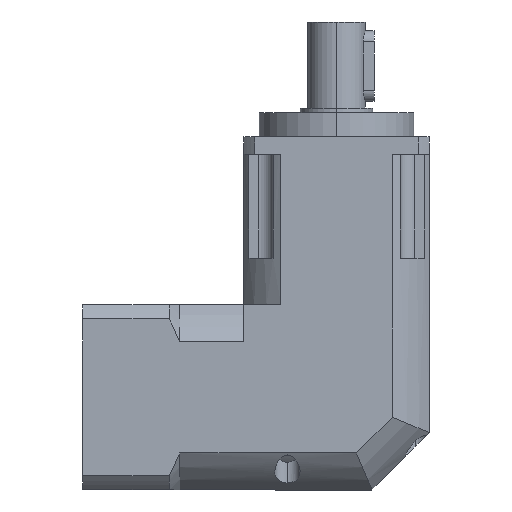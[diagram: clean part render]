
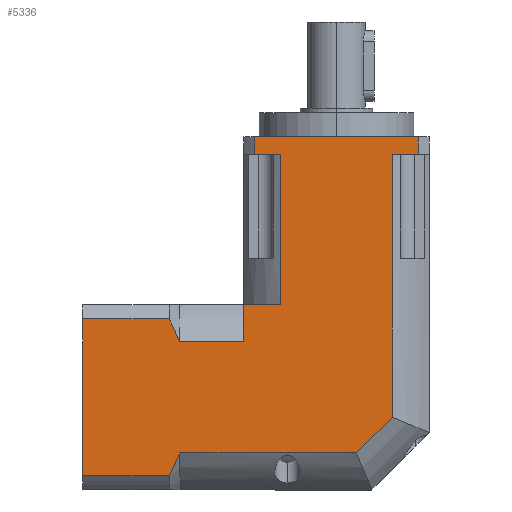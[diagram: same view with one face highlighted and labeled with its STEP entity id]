
A CAD part, left-side view. The second image highlights one B-rep face of the part: STEP entity #5336.
In plain terms, the highlighted planar face has unit normal (-1, 0, 0).
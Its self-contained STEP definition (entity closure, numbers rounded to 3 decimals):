
#17 = LINE ( 'NONE', #1537, #1837 ) ;
#29 = CARTESIAN_POINT ( 'NONE',  ( -21., 37.906, 38.755 ) ) ;
#61 = ORIENTED_EDGE ( 'NONE', *, *, #1546, .F. ) ;
#96 = VECTOR ( 'NONE', #4149, 1000. ) ;
#120 = CARTESIAN_POINT ( 'NONE',  ( -21., 18.52, 80. ) ) ;
#137 = VECTOR ( 'NONE', #4751, 1000. ) ;
#188 = EDGE_CURVE ( 'NONE', #2599, #1216, #2603, .T. ) ;
#200 = CARTESIAN_POINT ( 'NONE',  ( -21., 21., 33.619 ) ) ;
#220 = EDGE_CURVE ( 'NONE', #3378, #1308, #3653, .T. ) ;
#311 = PLANE ( 'NONE',  #2508 ) ;
#318 = CARTESIAN_POINT ( 'NONE',  ( -21., 57.5, 3.245 ) ) ;
#376 = ORIENTED_EDGE ( 'NONE', *, *, #4368, .F. ) ;
#396 = EDGE_LOOP ( 'NONE', ( #790, #1728, #2825, #5011, #4521, #5381, #61, #1581, #4986, #376, #3812, #3179, #1093, #3507, #2251, #2158, #1263 ) ) ;
#406 = VERTEX_POINT ( 'NONE', #2239 ) ;
#459 = VERTEX_POINT ( 'NONE', #2775 ) ;
#523 = VERTEX_POINT ( 'NONE', #3643 ) ;
#582 = DIRECTION ( 'NONE',  ( 0., -1., 0. ) ) ;
#790 = ORIENTED_EDGE ( 'NONE', *, *, #3337, .F. ) ;
#891 = VERTEX_POINT ( 'NONE', #2517 ) ;
#895 = CARTESIAN_POINT ( 'NONE',  ( -21., 21., 58.5 ) ) ;
#987 = CARTESIAN_POINT ( 'NONE',  ( -21., 35.5, 33.619 ) ) ;
#1093 = ORIENTED_EDGE ( 'NONE', *, *, #1709, .F. ) ;
#1113 = VERTEX_POINT ( 'NONE', #1795 ) ;
#1216 = VERTEX_POINT ( 'NONE', #3577 ) ;
#1263 = ORIENTED_EDGE ( 'NONE', *, *, #188, .F. ) ;
#1299 = CARTESIAN_POINT ( 'NONE',  ( -21., 57.5, 33.619 ) ) ;
#1308 = VERTEX_POINT ( 'NONE', #4121 ) ;
#1311 = VERTEX_POINT ( 'NONE', #318 ) ;
#1344 = B_SPLINE_CURVE_WITH_KNOTS ( 'NONE', 3,
 ( #1548, #2340, #5316, #5395 ),
 .UNSPECIFIED., .F., .F.,
 ( 4, 4 ),
 ( 0.041, 0.046 ),
 .UNSPECIFIED. ) ;
#1365 = CARTESIAN_POINT ( 'NONE',  ( -21., 35.5, 8.381 ) ) ;
#1413 = CARTESIAN_POINT ( 'NONE',  ( -21., -18.52, 76. ) ) ;
#1423 = CARTESIAN_POINT ( 'NONE',  ( -21., 36.226, 35.378 ) ) ;
#1439 = CARTESIAN_POINT ( 'NONE',  ( -21., 37.906, 38.755 ) ) ;
#1505 = VERTEX_POINT ( 'NONE', #3382 ) ;
#1537 = CARTESIAN_POINT ( 'NONE',  ( -21., 35.5, 3.245 ) ) ;
#1546 = EDGE_CURVE ( 'NONE', #1667, #406, #2682, .T. ) ;
#1548 = CARTESIAN_POINT ( 'NONE',  ( -21., 37.906, 3.245 ) ) ;
#1557 = EDGE_CURVE ( 'NONE', #1216, #4857, #2154, .T. ) ;
#1568 = DIRECTION ( 'NONE',  ( 0., 0., -1. ) ) ;
#1579 = VECTOR ( 'NONE', #1568, 1000. ) ;
#1581 = ORIENTED_EDGE ( 'NONE', *, *, #3519, .F. ) ;
#1586 = VECTOR ( 'NONE', #5138, 1000. ) ;
#1590 = LINE ( 'NONE', #2459, #5196 ) ;
#1667 = VERTEX_POINT ( 'NONE', #2090 ) ;
#1669 = DIRECTION ( 'NONE',  ( 0., 0., 1. ) ) ;
#1679 = DIRECTION ( 'NONE',  ( 0., 0.707, -0.707 ) ) ;
#1709 = EDGE_CURVE ( 'NONE', #1311, #891, #2553, .T. ) ;
#1712 = VERTEX_POINT ( 'NONE', #29 ) ;
#1728 = ORIENTED_EDGE ( 'NONE', *, *, #4765, .T. ) ;
#1757 = DIRECTION ( 'NONE',  ( 0., 0., 1. ) ) ;
#1795 = CARTESIAN_POINT ( 'NONE',  ( -21., 37.906, 3.245 ) ) ;
#1837 = VECTOR ( 'NONE', #4916, 1000. ) ;
#1934 = CARTESIAN_POINT ( 'NONE',  ( -21., 21., 33.619 ) ) ;
#1975 = EDGE_CURVE ( 'NONE', #523, #2646, #3805, .T. ) ;
#2090 = CARTESIAN_POINT ( 'NONE',  ( -21., 12.619, 42. ) ) ;
#2144 = CARTESIAN_POINT ( 'NONE',  ( -21., 18.52, 80. ) ) ;
#2154 = LINE ( 'NONE', #5095, #1586 ) ;
#2158 = ORIENTED_EDGE ( 'NONE', *, *, #1557, .F. ) ;
#2160 = VECTOR ( 'NONE', #3028, 1000. ) ;
#2230 = LINE ( 'NONE', #200, #3430 ) ;
#2239 = CARTESIAN_POINT ( 'NONE',  ( -21., 12.619, 76. ) ) ;
#2251 = ORIENTED_EDGE ( 'NONE', *, *, #4320, .T. ) ;
#2256 = CARTESIAN_POINT ( 'NONE',  ( -21., -12.619, 16.471 ) ) ;
#2340 = CARTESIAN_POINT ( 'NONE',  ( -21., 37.038, 4.922 ) ) ;
#2343 = LINE ( 'NONE', #5231, #3937 ) ;
#2412 = EDGE_CURVE ( 'NONE', #4313, #1712, #5369, .T. ) ;
#2438 = CARTESIAN_POINT ( 'NONE',  ( -21., 21., 58.5 ) ) ;
#2459 = CARTESIAN_POINT ( 'NONE',  ( -21., 35.5, 38.755 ) ) ;
#2508 = AXIS2_PLACEMENT_3D ( 'NONE', #2438, #4649, #3804 ) ;
#2517 = CARTESIAN_POINT ( 'NONE',  ( -21., 57.5, 38.755 ) ) ;
#2535 = DIRECTION ( 'NONE',  ( 0., 1., 0. ) ) ;
#2553 = LINE ( 'NONE', #1299, #4666 ) ;
#2599 = VERTEX_POINT ( 'NONE', #2256 ) ;
#2603 = LINE ( 'NONE', #4615, #3523 ) ;
#2627 = LINE ( 'NONE', #4306, #137 ) ;
#2637 = EDGE_CURVE ( 'NONE', #1308, #406, #2343, .T. ) ;
#2646 = VERTEX_POINT ( 'NONE', #1413 ) ;
#2682 = LINE ( 'NONE', #3866, #3996 ) ;
#2769 = EDGE_CURVE ( 'NONE', #1113, #1311, #17, .T. ) ;
#2775 = CARTESIAN_POINT ( 'NONE',  ( -21., -12.619, 76. ) ) ;
#2825 = ORIENTED_EDGE ( 'NONE', *, *, #1975, .F. ) ;
#2829 = DIRECTION ( 'NONE',  ( 0., -1., 0. ) ) ;
#2832 = FACE_OUTER_BOUND ( 'NONE', #396, .T. ) ;
#2845 = CARTESIAN_POINT ( 'NONE',  ( -21., 21., 42. ) ) ;
#2875 = CARTESIAN_POINT ( 'NONE',  ( -21., -18.52, 80. ) ) ;
#2899 = LINE ( 'NONE', #895, #3223 ) ;
#3028 = DIRECTION ( 'NONE',  ( 0., -1., 0. ) ) ;
#3029 = LINE ( 'NONE', #2144, #2160 ) ;
#3147 = DIRECTION ( 'NONE',  ( 0., -1., 0. ) ) ;
#3172 = EDGE_CURVE ( 'NONE', #1712, #891, #1590, .T. ) ;
#3179 = ORIENTED_EDGE ( 'NONE', *, *, #3172, .T. ) ;
#3223 = VECTOR ( 'NONE', #4775, 1000. ) ;
#3320 = EDGE_CURVE ( 'NONE', #3378, #523, #3029, .T. ) ;
#3337 = EDGE_CURVE ( 'NONE', #459, #2599, #2627, .T. ) ;
#3378 = VERTEX_POINT ( 'NONE', #120 ) ;
#3382 = CARTESIAN_POINT ( 'NONE',  ( -21., 21., 42. ) ) ;
#3430 = VECTOR ( 'NONE', #3147, 1000. ) ;
#3507 = ORIENTED_EDGE ( 'NONE', *, *, #2769, .F. ) ;
#3519 = EDGE_CURVE ( 'NONE', #1505, #1667, #4735, .T. ) ;
#3523 = VECTOR ( 'NONE', #1679, 1000. ) ;
#3577 = CARTESIAN_POINT ( 'NONE',  ( -21., -4.529, 8.381 ) ) ;
#3643 = CARTESIAN_POINT ( 'NONE',  ( -21., -18.52, 80. ) ) ;
#3653 = LINE ( 'NONE', #3859, #4517 ) ;
#3804 = DIRECTION ( 'NONE',  ( 0., 0., -1. ) ) ;
#3805 = LINE ( 'NONE', #2875, #1579 ) ;
#3812 = ORIENTED_EDGE ( 'NONE', *, *, #2412, .T. ) ;
#3859 = CARTESIAN_POINT ( 'NONE',  ( -21., 18.52, 80. ) ) ;
#3866 = CARTESIAN_POINT ( 'NONE',  ( -21., 12.619, 58.5 ) ) ;
#3937 = VECTOR ( 'NONE', #582, 1000. ) ;
#3996 = VECTOR ( 'NONE', #1757, 1000. ) ;
#4121 = CARTESIAN_POINT ( 'NONE',  ( -21., 18.52, 76. ) ) ;
#4149 = DIRECTION ( 'NONE',  ( 0., -1., 0. ) ) ;
#4266 = VERTEX_POINT ( 'NONE', #1934 ) ;
#4306 = CARTESIAN_POINT ( 'NONE',  ( -21., -12.619, 58.5 ) ) ;
#4313 = VERTEX_POINT ( 'NONE', #5298 ) ;
#4320 = EDGE_CURVE ( 'NONE', #1113, #4857, #1344, .T. ) ;
#4359 = CARTESIAN_POINT ( 'NONE',  ( -21., 37.04, 37.083 ) ) ;
#4368 = EDGE_CURVE ( 'NONE', #4313, #4266, #2230, .T. ) ;
#4517 = VECTOR ( 'NONE', #4707, 1000. ) ;
#4521 = ORIENTED_EDGE ( 'NONE', *, *, #220, .T. ) ;
#4615 = CARTESIAN_POINT ( 'NONE',  ( -21., -12.619, 16.471 ) ) ;
#4649 = DIRECTION ( 'NONE',  ( 1., 0., 0. ) ) ;
#4666 = VECTOR ( 'NONE', #1669, 1000. ) ;
#4707 = DIRECTION ( 'NONE',  ( 0., 0., -1. ) ) ;
#4735 = LINE ( 'NONE', #2845, #5259 ) ;
#4751 = DIRECTION ( 'NONE',  ( 0., 0., -1. ) ) ;
#4765 = EDGE_CURVE ( 'NONE', #459, #2646, #4869, .T. ) ;
#4775 = DIRECTION ( 'NONE',  ( 0., 0., 1. ) ) ;
#4857 = VERTEX_POINT ( 'NONE', #1365 ) ;
#4869 = LINE ( 'NONE', #5006, #96 ) ;
#4916 = DIRECTION ( 'NONE',  ( 0., 1., 0. ) ) ;
#4958 = EDGE_CURVE ( 'NONE', #4266, #1505, #2899, .T. ) ;
#4986 = ORIENTED_EDGE ( 'NONE', *, *, #4958, .F. ) ;
#5006 = CARTESIAN_POINT ( 'NONE',  ( -21., 18.52, 76. ) ) ;
#5011 = ORIENTED_EDGE ( 'NONE', *, *, #3320, .F. ) ;
#5095 = CARTESIAN_POINT ( 'NONE',  ( -21., 21., 8.381 ) ) ;
#5138 = DIRECTION ( 'NONE',  ( 0., 1., 0. ) ) ;
#5196 = VECTOR ( 'NONE', #2535, 1000. ) ;
#5231 = CARTESIAN_POINT ( 'NONE',  ( -21., 18.52, 76. ) ) ;
#5259 = VECTOR ( 'NONE', #2829, 1000. ) ;
#5298 = CARTESIAN_POINT ( 'NONE',  ( -21., 35.5, 33.619 ) ) ;
#5316 = CARTESIAN_POINT ( 'NONE',  ( -21., 36.224, 6.628 ) ) ;
#5336 = ADVANCED_FACE ( 'NONE', ( #2832 ), #311, .F. ) ;
#5369 = B_SPLINE_CURVE_WITH_KNOTS ( 'NONE', 3,
 ( #987, #1423, #4359, #1439 ),
 .UNSPECIFIED., .F., .F.,
 ( 4, 4 ),
 ( 0.072, 0.078 ),
 .UNSPECIFIED. ) ;
#5381 = ORIENTED_EDGE ( 'NONE', *, *, #2637, .T. ) ;
#5395 = CARTESIAN_POINT ( 'NONE',  ( -21., 35.5, 8.381 ) ) ;
